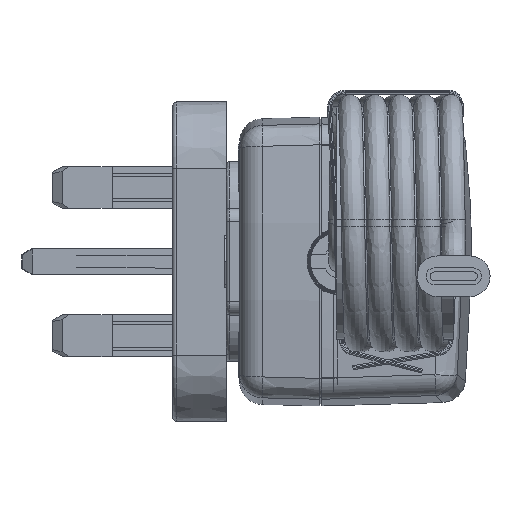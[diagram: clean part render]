
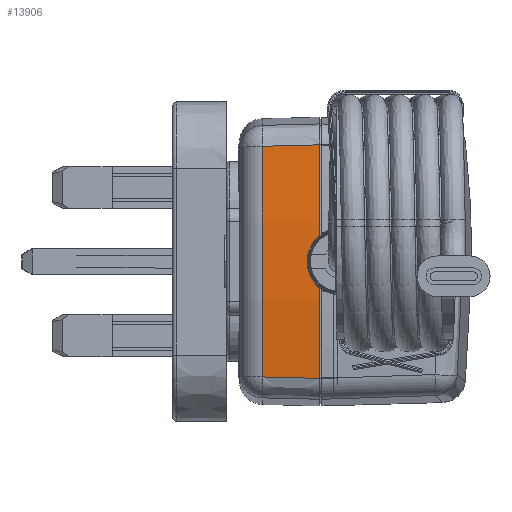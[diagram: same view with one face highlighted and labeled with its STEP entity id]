
A CAD part, left-side view. The second image highlights one B-rep face of the part: STEP entity #13906.
In plain terms, the highlighted conical face has half-angle 1.5 degrees and reference radius 169.887 mm.
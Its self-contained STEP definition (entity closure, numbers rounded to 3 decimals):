
#466=CARTESIAN_POINT('',(133.,0.,0.));
#467=DIRECTION('',(0.,1.,0.));
#468=DIRECTION('',(-0.995,0.,-0.103));
#469=AXIS2_PLACEMENT_3D('',#466,#467,#468);
#688=CARTESIAN_POINT('',(-35.894,8.592,-17.278));
#689=CARTESIAN_POINT('',(-35.909,7.938,-17.294));
#690=CARTESIAN_POINT('',(-35.941,6.601,-17.328));
#691=CARTESIAN_POINT('',(-35.99,4.516,-17.38));
#692=CARTESIAN_POINT('',(-36.042,2.33,-17.435));
#693=CARTESIAN_POINT('',(-36.079,0.79,
-17.474));
#694=CARTESIAN_POINT('',(-36.098,0.,-17.494));
#696=CARTESIAN_POINT('',(133.,8.592,0.));
#697=DIRECTION('',(0.,1.,0.));
#698=DIRECTION('',(-0.995,0.,-0.102));
#699=AXIS2_PLACEMENT_3D('',#696,#697,#698);
#701=CARTESIAN_POINT('',(-35.894,8.592,17.278));
#702=CARTESIAN_POINT('',(-35.909,7.938,17.294));
#703=CARTESIAN_POINT('',(-35.941,6.601,17.328));
#704=CARTESIAN_POINT('',(-35.99,4.516,17.38));
#705=CARTESIAN_POINT('',(-36.042,2.33,17.435));
#706=CARTESIAN_POINT('',(-36.079,0.79,17.474));
#707=CARTESIAN_POINT('',(-36.098,0.,17.494));
#10615=CARTESIAN_POINT('',(-36.098,0.,-17.494));
#10616=CARTESIAN_POINT('',(-36.098,0.,17.494));
#10617=VERTEX_POINT('',#10615);
#10618=VERTEX_POINT('',#10616);
#12130=CARTESIAN_POINT('',(-35.894,8.592,
-17.278));
#12132=VERTEX_POINT('',#12130);
#12140=CARTESIAN_POINT('',(-35.894,8.592,
17.278));
#12142=VERTEX_POINT('',#12140);
#13894=CARTESIAN_POINT('',(133.,4.296,0.));
#13895=DIRECTION('',(0.,-1.,0.));
#13896=DIRECTION('',(-1.,0.,0.));
#13897=AXIS2_PLACEMENT_3D('',#13894,#13895,#13896);
#13898=CONICAL_SURFACE('',#13897,169.888,1.5);
#13899=ORIENTED_EDGE('',*,*,#13886,.F.);
#13900=ORIENTED_EDGE('',*,*,#13842,.T.);
#13902=ORIENTED_EDGE('',*,*,#13901,.T.);
#13903=ORIENTED_EDGE('',*,*,#13455,.F.);
#13904=EDGE_LOOP('',(#13899,#13900,#13902,#13903));
#13905=FACE_OUTER_BOUND('',#13904,.F.);
#13906=ADVANCED_FACE('',(#13905),#13898,.T.);
#470=CIRCLE('',#469,170.);
#695=B_SPLINE_CURVE_WITH_KNOTS('',3,(#688,#689,#690,#691,#692,#693,#694),
.UNSPECIFIED.,.F.,.F.,(4,1,1,1,4),(0.,0.25,0.5,0.75,1.),
.UNSPECIFIED.);
#700=CIRCLE('',#699,169.775);
#708=B_SPLINE_CURVE_WITH_KNOTS('',3,(#701,#702,#703,#704,#705,#706,#707),
.UNSPECIFIED.,.F.,.F.,(4,1,1,1,4),(0.,0.25,0.5,0.75,1.),
.UNSPECIFIED.);
#13455=EDGE_CURVE('',#10617,#10618,#470,.T.);
#13842=EDGE_CURVE('',#12132,#12142,#700,.T.);
#13886=EDGE_CURVE('',#12132,#10617,#695,.T.);
#13901=EDGE_CURVE('',#12142,#10618,#708,.T.);
